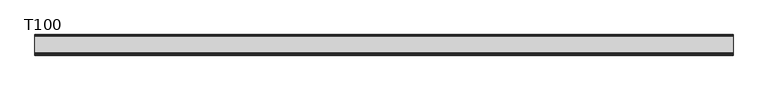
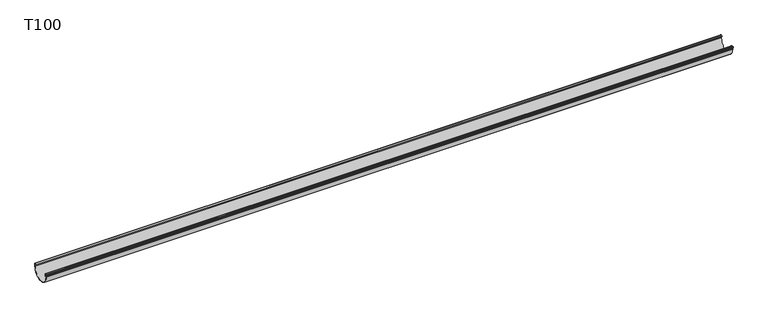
"""IFC4 building model written with IfcOpenShell, lengths in millimetres: proxy geometry, GROVIK_Gutter_Straight : T100."""

from ifc_helpers import new_model, si_unit, point, frame, frame_2d, origin, place, context, project, spatial, polyline, circle_curve, trimmed, segment, composite_curve, outline, extrude, source, transform, mapped, element, save


def t100_1bc59f46(model_context):
    return source(origin(), model_context, "Body", "SweptSolid", [
        extrude(outline(composite_curve([segment(polyline([(95.6785725, 12.9222472), (94.8220658, 3.1323306), (104.7816977, 1.3761787), (105.2998033, 7.2981526), (98.3413035, 6.0711814), (98.1850202, 6.9575084), (105.0151773, 8.1618494)]), True, "CONTINUOUS"), segment(trimmed(circle_curve(frame_2d((105.1888255, 7.1770416)), 1.0), [point((105.0151773, 8.1618494))], [point((106.1850202, 7.0898859))], False, "CARTESIAN"), True, "CONTINUOUS"), segment(polyline([(106.1850202, 7.0898859), (105.6885136, 1.4147891)]), True, "CONTINUOUS"), segment(trimmed(circle_curve(frame_2d((104.6923189, 1.5019449)), 1.0), [point((105.6885136, 1.4147891))], [point((104.6051631, 0.5057503))], False, "CARTESIAN"), True, "CONTINUOUS"), segment(polyline([(104.6051631, 0.5057503), (94.7570856, 2.242232)]), True, "CONTINUOUS"), segment(trimmed(circle_curve(frame_2d((94.9307338, 3.2270398)), 1.0), [point((94.7570856, 2.242232))], [point((93.9345391, 3.3141955))], False, "CARTESIAN"), True, "CONTINUOUS"), segment(polyline([(93.9345391, 3.3141955), (94.7746841, 12.9170967)]), True, "CONTINUOUS"), segment(trimmed(circle_curve(frame_2d((95.683723, 12.9170967)), 0.909039), [point((94.7746841, 12.9170967))], [point((95.683723, 13.8261357))], False, "CARTESIAN"), True, "CONTINUOUS"), segment(polyline([(95.683723, 13.8261357), (100.9, 14.2825008), (100.9, 16.3578028)]), True, "CONTINUOUS"), segment(trimmed(circle_curve(frame_2d((50.9, 16.3578028)), 50.0), [point((100.9, 16.3578028))], [point((0.9, 16.3578028))], True, "CARTESIAN"), True, "CONTINUOUS"), segment(polyline([(0.9, 16.3578028), (0.9, 1.3578028), (5.6494755, 5.3430859), (6.2279844, 4.6536459), (0.8213938, 0.1169778)]), True, "CONTINUOUS"), segment(trimmed(circle_curve(frame_2d((0.5, 0.5)), 0.5), [point((0.8213938, 0.1169778))], [point((0.0, 0.5))], False, "CARTESIAN"), True, "CONTINUOUS"), segment(polyline([(0.0, 0.5), (0.0, 16.3578028)]), True, "CONTINUOUS"), segment(trimmed(circle_curve(frame_2d((50.9, 16.3578028)), 50.9), [point((0.0, 16.3578028))], [point((101.8, 16.3578028))], False, "CARTESIAN"), True, "CONTINUOUS"), segment(polyline([(101.8, 16.3578028), (101.8, 14.3741339)]), True, "CONTINUOUS"), segment(trimmed(circle_curve(frame_2d((100.8, 14.3741339)), 1.0), [point((101.8, 14.3741339))], [point((100.8871557, 13.3779393))], False, "CARTESIAN"), True, "CONTINUOUS"), segment(polyline([(100.8871557, 13.3779393), (95.6785725, 12.9222472)]), True, "CONTINUOUS")], self_intersect=False)), frame((45.0, 0.0, 0.0), z_axis=(0.9999992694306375, 0.0, 0.0012087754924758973), x_axis=(0.0, -1.0, 0.0)), (0.0, 0.0, 1.0), 3589.9869887),
    ])


if __name__ == "__main__":
    model = new_model("IFC4")
    model_context = context("Model", 3, world=origin())
    ifc_project = project(units=[si_unit("LENGTHUNIT", "METRE", prefix="MILLI")], contexts=[model_context])
    site = spatial("IfcSite", under=ifc_project)
    building = spatial("IfcBuilding", under=site)
    placement = place(None, origin())
    t100_shape = t100_1bc59f46(model_context)
    element("IfcBuildingElementProxy", 1, Name="GROVIK_Gutter_Straight : T100", ObjectType="GROVIK_Gutter_Straight : T100", at=placement, inside=building, context=model_context, shape_type="MappedRepresentation", body=[
        mapped(t100_shape, transform((0.0, 0.0, 0.0), x_axis=(1.0, 0.0, 0.0), y_axis=(0.0, 1.0, 0.0), z_axis=(0.0, 0.0, 1.0))),
    ])
    save(model, "model.ifc")
